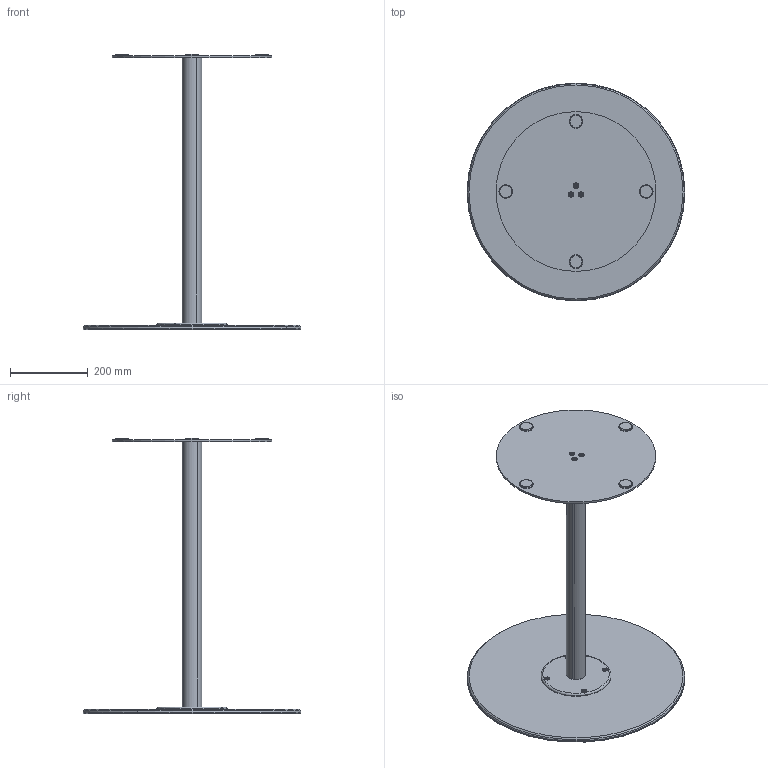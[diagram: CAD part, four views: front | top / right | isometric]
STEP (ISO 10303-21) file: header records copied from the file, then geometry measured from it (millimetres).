
FILE_DESCRIPTION (( 'STEP AP214' ), '1' );
FILE_NAME ('L.S.T-W-001縉溜袤.STEP', '2023-08-16T00:32:24', ( '' ), ( '' ), 'SwSTEP 2.0', 'SolidWorks 2019', '' );
FILE_SCHEMA (( 'AUTOMOTIVE_DESIGN' ));
Length unit declared in the file: millimetre
Products named in the file (7): 5MM沺啣菁啣; 躂怢醱蟀諉啣30謂; L.S.T-W-001縉溜袤; M6X20; 蟀諉裝50; M6X16; 躂怢醱500
Assembly tree (14 placements, depth 2):
  L.S.T-W-001縉溜袤
    蟀諉裝50
    5MM沺啣菁啣
    躂怢醱蟀諉啣30謂
    躂怢醱500
    M6X16  x4
    M6X20  x6
Bounding box: 559 x 559 x 706 mm (x, y, z)
Volume: 3803509 mm3; surface area: 1141781.7 mm2
Topology: 18 solids, 18 shells, 366 faces, 848 edges, 528 vertices
Faces by surface type: plane 132, cylinder 112, cone 58, torus 34, bspline 30
Entity records: 10151 total; most frequent: CARTESIAN_POINT 4775, DIRECTION 1127, ORIENTED_EDGE 942, EDGE_CURVE 471, AXIS2_PLACEMENT_3D 459, VERTEX_POINT 297, CIRCLE 244, EDGE_LOOP 236
